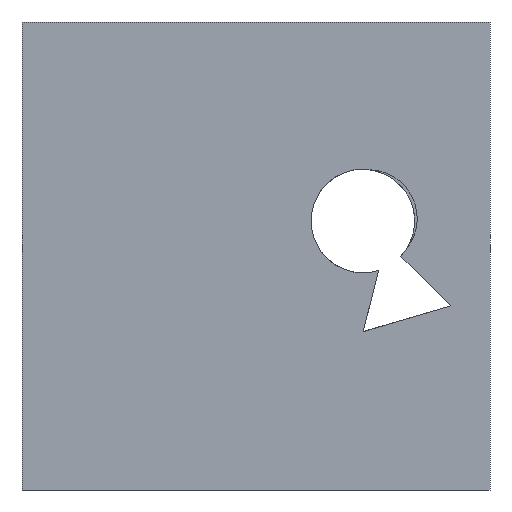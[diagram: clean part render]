
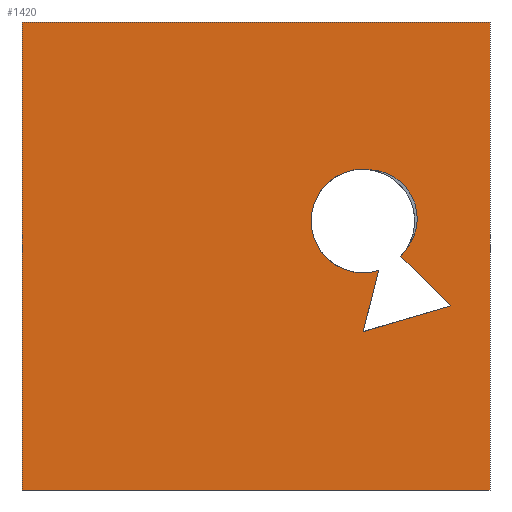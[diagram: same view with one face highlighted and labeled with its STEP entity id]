
A CAD part, front view. The second image highlights one B-rep face of the part: STEP entity #1420.
In plain terms, the highlighted planar face has unit normal (0, -1, 0).
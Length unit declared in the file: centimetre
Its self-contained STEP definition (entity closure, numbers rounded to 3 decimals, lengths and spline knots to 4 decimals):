
#16 = VERTEX_POINT ( 'NONE', #1306 ) ;
#17 = CARTESIAN_POINT ( 'NONE',  ( 778.056, 0., 531.1875 ) ) ;
#27 = CIRCLE ( 'NONE', #477, 110.6782 ) ;
#37 = CARTESIAN_POINT ( 'NONE',  ( 1000., 0., 0. ) ) ;
#48 = ORIENTED_EDGE ( 'NONE', *, *, #150, .T. ) ;
#51 = LINE ( 'NONE', #1261, #424 ) ;
#56 = ORIENTED_EDGE ( 'NONE', *, *, #678, .F. ) ;
#84 = CARTESIAN_POINT ( 'NONE',  ( 728.3592, 0., 685.4582 ) ) ;
#114 = DIRECTION ( 'NONE',  ( 0., 0., 1. ) ) ;
#121 = DIRECTION ( 'NONE',  ( -0.707, 0., 0.707 ) ) ;
#124 = EDGE_CURVE ( 'NONE', #991, #16, #1165, .T. ) ;
#132 = CARTESIAN_POINT ( 'NONE',  ( 0., 0., 0. ) ) ;
#133 = EDGE_CURVE ( 'NONE', #1035, #346, #1335, .T. ) ;
#150 = EDGE_CURVE ( 'NONE', #1348, #692, #1090, .T. ) ;
#159 = VECTOR ( 'NONE', #1318, 100. ) ;
#160 = ORIENTED_EDGE ( 'NONE', *, *, #920, .T. ) ;
#167 = VECTOR ( 'NONE', #1065, 100. ) ;
#170 = ORIENTED_EDGE ( 'NONE', *, *, #133, .T. ) ;
#220 = VECTOR ( 'NONE', #550, 100. ) ;
#238 = DIRECTION ( 'NONE',  ( 0., 1., 0. ) ) ;
#239 = EDGE_CURVE ( 'NONE', #1348, #991, #293, .T. ) ;
#244 = AXIS2_PLACEMENT_3D ( 'NONE', #775, #1300, #1470 ) ;
#280 = CARTESIAN_POINT ( 'NONE',  ( 728.3592, 0., 574.78 ) ) ;
#282 = CARTESIAN_POINT ( 'NONE',  ( 820.6132, 0., 513.6337 ) ) ;
#286 = DIRECTION ( 'NONE',  ( 0., 1., 0. ) ) ;
#293 = LINE ( 'NONE', #17, #167 ) ;
#331 = AXIS2_PLACEMENT_3D ( 'NONE', #280, #286, #938 ) ;
#346 = VERTEX_POINT ( 'NONE', #37 ) ;
#378 = EDGE_LOOP ( 'NONE', ( #170, #1500, #56, #1135 ) ) ;
#391 = ORIENTED_EDGE ( 'NONE', *, *, #953, .F. ) ;
#424 = VECTOR ( 'NONE', #1502, 100. ) ;
#436 = FACE_OUTER_BOUND ( 'NONE', #378, .T. ) ;
#444 = DIRECTION ( 'NONE',  ( 0., 1., 0. ) ) ;
#452 = CARTESIAN_POINT ( 'NONE',  ( 728.3592, 0., 464.1017 ) ) ;
#458 = VERTEX_POINT ( 'NONE', #655 ) ;
#459 = EDGE_CURVE ( 'NONE', #1386, #1630, #27, .T. ) ;
#477 = AXIS2_PLACEMENT_3D ( 'NONE', #761, #1684, #1057 ) ;
#543 = CARTESIAN_POINT ( 'NONE',  ( 0., 0., 0. ) ) ;
#550 = DIRECTION ( 'NONE',  ( 1., 0., 0. ) ) ;
#577 = PLANE ( 'NONE',  #610 ) ;
#610 = AXIS2_PLACEMENT_3D ( 'NONE', #1605, #444, #1240 ) ;
#635 = LINE ( 'NONE', #1047, #1025 ) ;
#654 = CARTESIAN_POINT ( 'NONE',  ( 746.9033, 0., 683.8936 ) ) ;
#655 = CARTESIAN_POINT ( 'NONE',  ( 1000., 0., 1000. ) ) ;
#668 = EDGE_CURVE ( 'NONE', #458, #346, #51, .T. ) ;
#678 = EDGE_CURVE ( 'NONE', #720, #458, #704, .T. ) ;
#691 = CIRCLE ( 'NONE', #801, 110.6782 ) ;
#692 = VERTEX_POINT ( 'NONE', #452 ) ;
#704 = LINE ( 'NONE', #854, #1458 ) ;
#719 = ORIENTED_EDGE ( 'NONE', *, *, #124, .F. ) ;
#720 = VERTEX_POINT ( 'NONE', #725 ) ;
#725 = CARTESIAN_POINT ( 'NONE',  ( 0., 0., 1000. ) ) ;
#733 = EDGE_LOOP ( 'NONE', ( #719, #1480, #48, #160, #869, #1641, #1449, #391 ) ) ;
#761 = CARTESIAN_POINT ( 'NONE',  ( 728.3592, 0., 574.78 ) ) ;
#763 = VERTEX_POINT ( 'NONE', #84 ) ;
#773 = LINE ( 'NONE', #1326, #159 ) ;
#774 = CIRCLE ( 'NONE', #244, 103.9796 ) ;
#775 = CARTESIAN_POINT ( 'NONE',  ( 740.6526, 0., 580.1021 ) ) ;
#801 = AXIS2_PLACEMENT_3D ( 'NONE', #907, #1301, #114 ) ;
#854 = CARTESIAN_POINT ( 'NONE',  ( 0., 0., 1000. ) ) ;
#855 = CARTESIAN_POINT ( 'NONE',  ( 762.2827, 0., 469.4288 ) ) ;
#869 = ORIENTED_EDGE ( 'NONE', *, *, #1081, .T. ) ;
#902 = CARTESIAN_POINT ( 'NONE',  ( 728.8088, 0., 338.366 ) ) ;
#907 = CARTESIAN_POINT ( 'NONE',  ( 728.3592, 0., 574.78 ) ) ;
#920 = EDGE_CURVE ( 'NONE', #692, #763, #1435, .T. ) ;
#938 = DIRECTION ( 'NONE',  ( 0., 0., 1. ) ) ;
#953 = EDGE_CURVE ( 'NONE', #16, #1630, #635, .T. ) ;
#954 = VERTEX_POINT ( 'NONE', #654 ) ;
#973 = EDGE_CURVE ( 'NONE', #720, #1035, #773, .T. ) ;
#976 = VECTOR ( 'NONE', #1343, 100. ) ;
#991 = VERTEX_POINT ( 'NONE', #1545 ) ;
#1025 = VECTOR ( 'NONE', #121, 100. ) ;
#1035 = VERTEX_POINT ( 'NONE', #132 ) ;
#1047 = CARTESIAN_POINT ( 'NONE',  ( 915.9064, 0., 393.337 ) ) ;
#1057 = DIRECTION ( 'NONE',  ( 0., 0., 1. ) ) ;
#1065 = DIRECTION ( 'NONE',  ( -0.247, 0., -0.969 ) ) ;
#1081 = EDGE_CURVE ( 'NONE', #763, #954, #691, .T. ) ;
#1090 = CIRCLE ( 'NONE', #331, 110.6782 ) ;
#1112 = FACE_BOUND ( 'NONE', #733, .T. ) ;
#1135 = ORIENTED_EDGE ( 'NONE', *, *, #973, .T. ) ;
#1165 = LINE ( 'NONE', #902, #976 ) ;
#1173 = CARTESIAN_POINT ( 'NONE',  ( 728.3592, 0., 574.78 ) ) ;
#1240 = DIRECTION ( 'NONE',  ( 0., 0., 1. ) ) ;
#1261 = CARTESIAN_POINT ( 'NONE',  ( 1000., 0., 1000. ) ) ;
#1291 = EDGE_CURVE ( 'NONE', #1386, #954, #774, .T. ) ;
#1300 = DIRECTION ( 'NONE',  ( 0., -1., 0. ) ) ;
#1301 = DIRECTION ( 'NONE',  ( 0., 1., 0. ) ) ;
#1306 = CARTESIAN_POINT ( 'NONE',  ( 915.9064, 0., 393.337 ) ) ;
#1308 = DIRECTION ( 'NONE',  ( 0., 0., 1. ) ) ;
#1318 = DIRECTION ( 'NONE',  ( 0., 0., -1. ) ) ;
#1326 = CARTESIAN_POINT ( 'NONE',  ( 0., 0., 1000. ) ) ;
#1335 = LINE ( 'NONE', #543, #220 ) ;
#1343 = DIRECTION ( 'NONE',  ( 0.959, 0., 0.282 ) ) ;
#1348 = VERTEX_POINT ( 'NONE', #855 ) ;
#1386 = VERTEX_POINT ( 'NONE', #282 ) ;
#1420 = ADVANCED_FACE ( 'NONE', ( #1112, #436 ), #577, .F. ) ;
#1435 = CIRCLE ( 'NONE', #1645, 110.6782 ) ;
#1449 = ORIENTED_EDGE ( 'NONE', *, *, #459, .T. ) ;
#1458 = VECTOR ( 'NONE', #1616, 100. ) ;
#1470 = DIRECTION ( 'NONE',  ( 0., 0., -1. ) ) ;
#1480 = ORIENTED_EDGE ( 'NONE', *, *, #239, .F. ) ;
#1500 = ORIENTED_EDGE ( 'NONE', *, *, #668, .F. ) ;
#1502 = DIRECTION ( 'NONE',  ( 0., 0., -1. ) ) ;
#1545 = CARTESIAN_POINT ( 'NONE',  ( 728.8088, 0., 338.366 ) ) ;
#1548 = CARTESIAN_POINT ( 'NONE',  ( 809.6131, 0., 499.6303 ) ) ;
#1605 = CARTESIAN_POINT ( 'NONE',  ( 0., 0., 1000. ) ) ;
#1616 = DIRECTION ( 'NONE',  ( 1., 0., 0. ) ) ;
#1630 = VERTEX_POINT ( 'NONE', #1548 ) ;
#1641 = ORIENTED_EDGE ( 'NONE', *, *, #1291, .F. ) ;
#1645 = AXIS2_PLACEMENT_3D ( 'NONE', #1173, #238, #1308 ) ;
#1684 = DIRECTION ( 'NONE',  ( 0., 1., 0. ) ) ;
